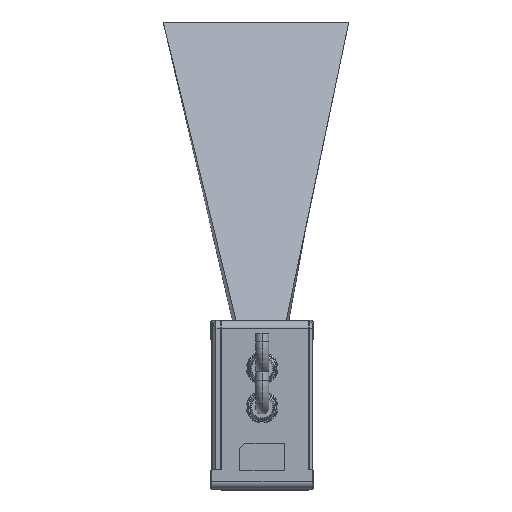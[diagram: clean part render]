
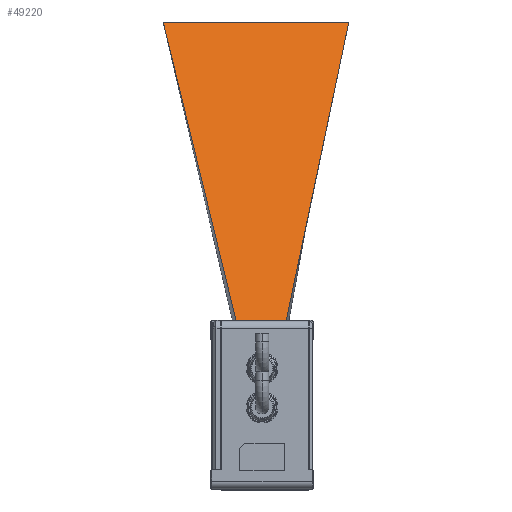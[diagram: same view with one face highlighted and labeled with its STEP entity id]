
A CAD part, left-side view. The second image highlights one B-rep face of the part: STEP entity #49220.
In plain terms, the highlighted planar face has unit normal (0.923, 0, -0.385).
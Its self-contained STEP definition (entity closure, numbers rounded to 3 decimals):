
#49099=DIRECTION('',(0.378,-0.19,0.906));
#49100=VECTOR('',#49099,192.596);
#49101=CARTESIAN_POINT('',(66.531,36.6,
-174.481));
#49102=LINE('',#49101,#49100);
#49103=DIRECTION('',(0.,1.,0.));
#49104=VECTOR('',#49103,105.);
#49105=CARTESIAN_POINT('',(139.4,0.,
0.));
#49106=LINE('',#49105,#49104);
#49107=DIRECTION('',(-0.376,-0.22,-0.9));
#49108=VECTOR('',#49107,193.825);
#49109=CARTESIAN_POINT('',(139.4,105.,0.));
#49110=LINE('',#49109,#49108);
#49111=DIRECTION('',(0.,-1.,0.));
#49112=VECTOR('',#49111,25.8);
#49113=CARTESIAN_POINT('',(66.531,62.4,
-174.481));
#49114=LINE('',#49113,#49112);
#49123=CARTESIAN_POINT('',(66.531,62.4,
-174.481));
#49124=VERTEX_POINT('',#49123);
#49125=CARTESIAN_POINT('',(66.531,36.6,
-174.481));
#49126=VERTEX_POINT('',#49125);
#49131=CARTESIAN_POINT('',(139.4,105.,0.));
#49132=VERTEX_POINT('',#49131);
#49133=CARTESIAN_POINT('',(139.4,0.,
0.));
#49134=VERTEX_POINT('',#49133);
#49207=CARTESIAN_POINT('',(102.965,52.5,-87.241));
#49208=DIRECTION('',(0.923,0.,-0.385));
#49209=DIRECTION('',(0.,1.,0.));
#49210=AXIS2_PLACEMENT_3D('',#49207,#49208,#49209);
#49211=PLANE('',#49210);
#49213=ORIENTED_EDGE('',*,*,#49212,.T.);
#49214=ORIENTED_EDGE('',*,*,#49144,.T.);
#49215=ORIENTED_EDGE('',*,*,#49198,.T.);
#49217=ORIENTED_EDGE('',*,*,#49216,.T.);
#49218=EDGE_LOOP('',(#49213,#49214,#49215,#49217));
#49219=FACE_OUTER_BOUND('',#49218,.F.);
#49144=EDGE_CURVE('',#49134,#49132,#49106,.T.);
#49198=EDGE_CURVE('',#49132,#49124,#49110,.T.);
#49212=EDGE_CURVE('',#49126,#49134,#49102,.T.);
#49216=EDGE_CURVE('',#49124,#49126,#49114,.T.);
#49220=ADVANCED_FACE('',(#49219),#49211,.T.);
